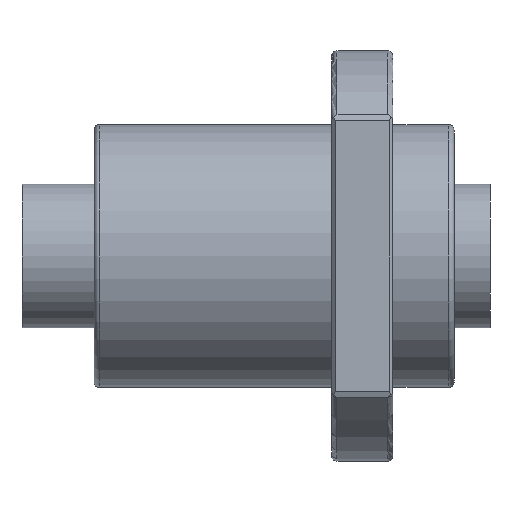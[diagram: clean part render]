
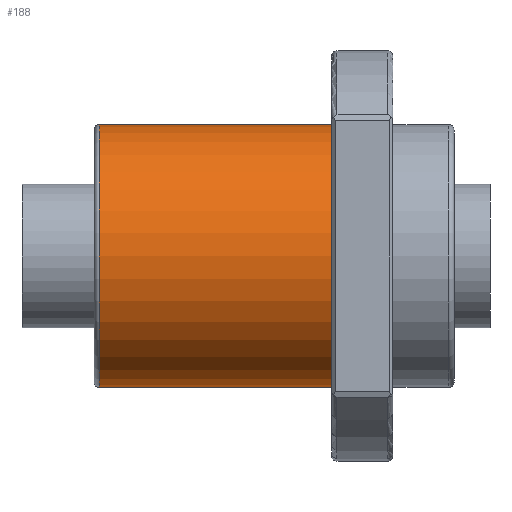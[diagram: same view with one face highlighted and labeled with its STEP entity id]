
A CAD part, left-side view. The second image highlights one B-rep face of the part: STEP entity #188.
In plain terms, the highlighted cylindrical face has radius 36.5 mm (diameter 73 mm), a full revolution.
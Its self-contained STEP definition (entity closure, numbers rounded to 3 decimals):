
#188=ADVANCED_FACE('',(#262,#263),#234,.T.);
#234=CYLINDRICAL_SURFACE('',#828,36.5);
#262=FACE_BOUND('',#334,.T.);
#263=FACE_BOUND('',#335,.T.);
#334=EDGE_LOOP('',(#436));
#335=EDGE_LOOP('',(#437));
#436=ORIENTED_EDGE('',*,*,#690,.T.);
#437=ORIENTED_EDGE('',*,*,#677,.F.);
#605=VERTEX_POINT('',#1136);
#618=VERTEX_POINT('',#1165);
#677=EDGE_CURVE('',#605,#605,#767,.T.);
#690=EDGE_CURVE('',#618,#618,#774,.T.);
#767=CIRCLE('',#817,36.5);
#774=CIRCLE('',#827,36.5);
#817=AXIS2_PLACEMENT_3D('',#1135,#937,#938);
#827=AXIS2_PLACEMENT_3D('',#1164,#963,#964);
#828=AXIS2_PLACEMENT_3D('',#1166,#965,#966);
#937=DIRECTION('',(0.,-1.,0.));
#938=DIRECTION('',(1.,0.,0.));
#963=DIRECTION('',(0.,-1.,0.));
#964=DIRECTION('',(0.,0.,-1.));
#965=DIRECTION('',(0.,-1.,0.));
#966=DIRECTION('',(0.,0.,-1.));
#1135=CARTESIAN_POINT('',(0.,17.,0.));
#1136=CARTESIAN_POINT('',(36.5,17.,0.));
#1164=CARTESIAN_POINT('',(0.,81.5,0.));
#1165=CARTESIAN_POINT('',(0.,81.5,-36.5));
#1166=CARTESIAN_POINT('',(0.,83.,0.));
